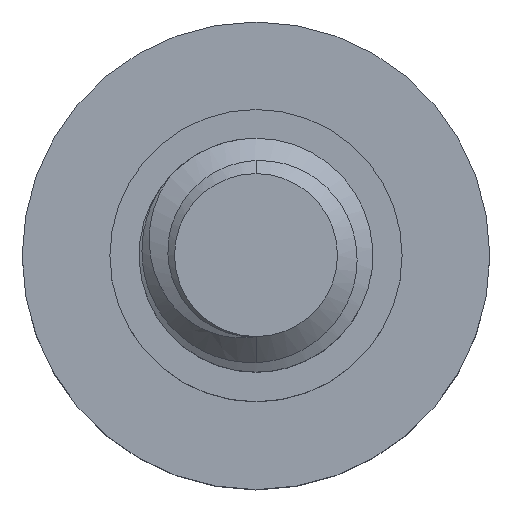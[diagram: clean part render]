
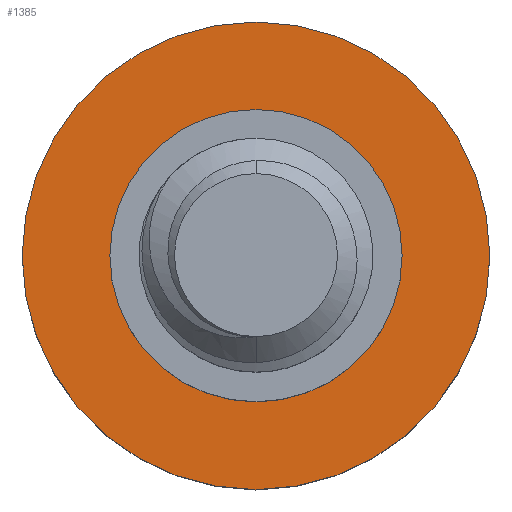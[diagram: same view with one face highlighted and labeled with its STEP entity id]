
A CAD part, top view. The second image highlights one B-rep face of the part: STEP entity #1385.
In plain terms, the highlighted planar face has unit normal (0, 0, 1).
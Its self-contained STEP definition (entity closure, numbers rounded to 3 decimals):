
#10 = VERTEX_POINT ( 'NONE', #1573 ) ;
#11 = CARTESIAN_POINT ( 'NONE',  ( 0., 0., -2. ) ) ;
#70 = CARTESIAN_POINT ( 'NONE',  ( 0., 0., -2. ) ) ;
#103 = CIRCLE ( 'NONE', #1815, 2.5 ) ;
#191 = CARTESIAN_POINT ( 'NONE',  ( -2.5, 0., -2. ) ) ;
#205 = DIRECTION ( 'NONE',  ( 0., 0., -1. ) ) ;
#238 = ORIENTED_EDGE ( 'NONE', *, *, #249, .T. ) ;
#249 = EDGE_CURVE ( 'NONE', #1360, #750, #638, .T. ) ;
#270 = DIRECTION ( 'NONE',  ( 0., 0., -1. ) ) ;
#307 = PLANE ( 'NONE',  #2075 ) ;
#458 = ORIENTED_EDGE ( 'NONE', *, *, #489, .T. ) ;
#467 = FACE_BOUND ( 'NONE', #1170, .T. ) ;
#470 = CARTESIAN_POINT ( 'NONE',  ( 0., 0., -2. ) ) ;
#489 = EDGE_CURVE ( 'NONE', #750, #1360, #103, .T. ) ;
#565 = CIRCLE ( 'NONE', #1335, 4. ) ;
#593 = EDGE_CURVE ( 'NONE', #698, #10, #565, .T. ) ;
#600 = CIRCLE ( 'NONE', #739, 4. ) ;
#638 = CIRCLE ( 'NONE', #2001, 2.5 ) ;
#698 = VERTEX_POINT ( 'NONE', #1978 ) ;
#739 = AXIS2_PLACEMENT_3D ( 'NONE', #11, #1544, #1698 ) ;
#750 = VERTEX_POINT ( 'NONE', #191 ) ;
#798 = DIRECTION ( 'NONE',  ( 0., 0., -1. ) ) ;
#824 = DIRECTION ( 'NONE',  ( -1., 0., 0. ) ) ;
#958 = DIRECTION ( 'NONE',  ( -1., 0., 0. ) ) ;
#993 = ORIENTED_EDGE ( 'NONE', *, *, #593, .F. ) ;
#1031 = EDGE_CURVE ( 'NONE', #10, #698, #600, .T. ) ;
#1128 = FACE_OUTER_BOUND ( 'NONE', #1931, .T. ) ;
#1170 = EDGE_LOOP ( 'NONE', ( #458, #238 ) ) ;
#1191 = ORIENTED_EDGE ( 'NONE', *, *, #1031, .F. ) ;
#1246 = DIRECTION ( 'NONE',  ( -1., 0., 0. ) ) ;
#1335 = AXIS2_PLACEMENT_3D ( 'NONE', #470, #270, #958 ) ;
#1360 = VERTEX_POINT ( 'NONE', #1473 ) ;
#1385 = ADVANCED_FACE ( 'NONE', ( #467, #1128 ), #307, .F. ) ;
#1437 = CARTESIAN_POINT ( 'NONE',  ( 0., 0., -2. ) ) ;
#1473 = CARTESIAN_POINT ( 'NONE',  ( 2.5, 0., -2. ) ) ;
#1544 = DIRECTION ( 'NONE',  ( 0., 0., -1. ) ) ;
#1557 = DIRECTION ( 'NONE',  ( -1., 0., 0. ) ) ;
#1573 = CARTESIAN_POINT ( 'NONE',  ( -4., 0., -2. ) ) ;
#1698 = DIRECTION ( 'NONE',  ( -1., 0., 0. ) ) ;
#1815 = AXIS2_PLACEMENT_3D ( 'NONE', #70, #2045, #1557 ) ;
#1848 = CARTESIAN_POINT ( 'NONE',  ( 0., 0., -2. ) ) ;
#1931 = EDGE_LOOP ( 'NONE', ( #993, #1191 ) ) ;
#1978 = CARTESIAN_POINT ( 'NONE',  ( 4., 0., -2. ) ) ;
#2001 = AXIS2_PLACEMENT_3D ( 'NONE', #1848, #205, #824 ) ;
#2045 = DIRECTION ( 'NONE',  ( 0., 0., -1. ) ) ;
#2075 = AXIS2_PLACEMENT_3D ( 'NONE', #1437, #798, #1246 ) ;
